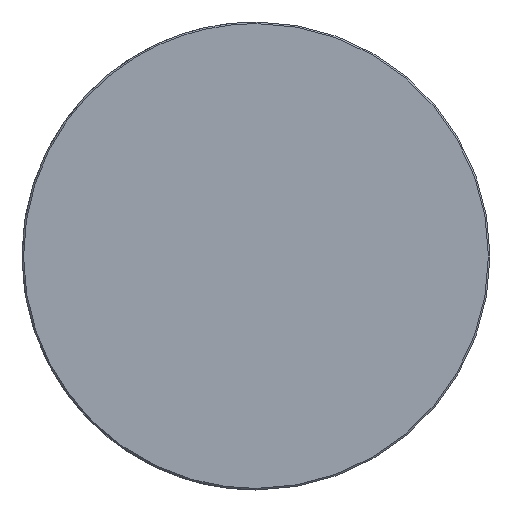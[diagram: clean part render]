
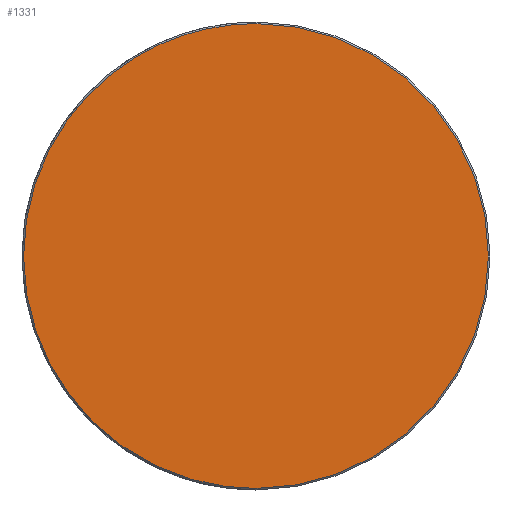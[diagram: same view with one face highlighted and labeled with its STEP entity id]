
A CAD part, front view. The second image highlights one B-rep face of the part: STEP entity #1331.
In plain terms, the highlighted planar face has unit normal (0, -1, 0).
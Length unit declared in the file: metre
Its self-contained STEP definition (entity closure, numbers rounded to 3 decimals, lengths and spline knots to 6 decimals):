
#20=EDGE_CURVE('',#21,#23,#25,.F.);
#21=VERTEX_POINT('',#22);
#22=CARTESIAN_POINT('',(0.0,-0.014,-0.0298));
#23=VERTEX_POINT('',#24);
#24=CARTESIAN_POINT('',(0.0,-0.014,0.0298));
#25=CIRCLE('',#26,0.0298);
#26=AXIS2_PLACEMENT_3D('',#27,#28,#29);
#27=CARTESIAN_POINT('',(0.0,-0.014,0.0));
#28=DIRECTION('',(0.0,1.0,0.0));
#29=DIRECTION('',(0.0,0.0,1.0));
#1331=ADVANCED_FACE('',(#1337),#1332,.F.);
#1332=PLANE('',#1333);
#1333=AXIS2_PLACEMENT_3D('',#1334,#1335,#1336);
#1334=CARTESIAN_POINT('',(0.0,-0.014,0.03));
#1335=DIRECTION('',(0.0,1.0,0.0));
#1336=DIRECTION('',(0.0,0.0,1.0));
#1337=FACE_OUTER_BOUND('',#1338,.T.);
#1338=EDGE_LOOP('',(#1339,#1347));
#1339=ORIENTED_EDGE('',*,*,#1341,.T.);
#1340=CARTESIAN_POINT('',(0.0,-0.014,-0.0298));
#1341=EDGE_CURVE('',#23,#21,#1342,.F.);
#1342=(B_SPLINE_CURVE(3,(#1340,#1343,#1344,#1345),.UNSPECIFIED.,.F.,.U.)B_SPLINE_CURVE_WITH_KNOTS(
  (4,4),(0.0,1.0),.UNSPECIFIED.)BOUNDED_CURVE()CURVE()GEOMETRIC_REPRESENTATION_ITEM(
  )RATIONAL_B_SPLINE_CURVE((1.0,0.333,0.333,1.0)
  )REPRESENTATION_ITEM(''));
#1343=CARTESIAN_POINT('',(-0.0596,-0.014,-0.0298));
#1344=CARTESIAN_POINT('',(-0.0596,-0.014,0.0298));
#1345=CARTESIAN_POINT('',(0.0,-0.014,0.0298));
#1347=ORIENTED_EDGE('',*,*,#20,.T.);
